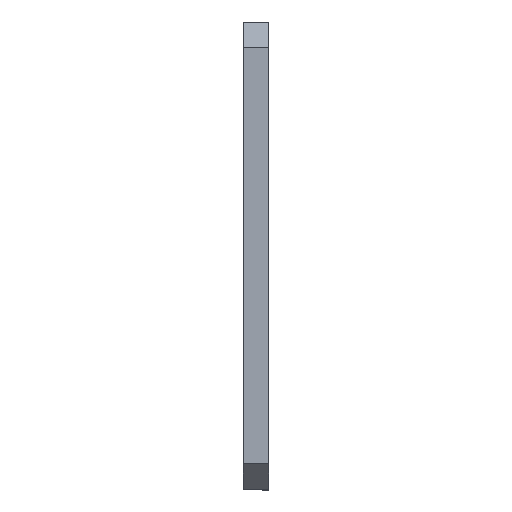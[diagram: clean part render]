
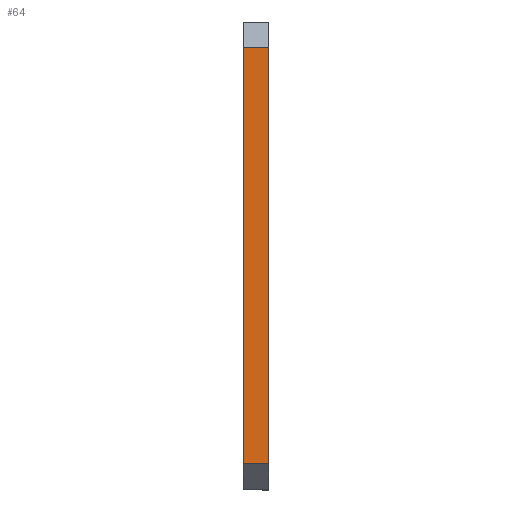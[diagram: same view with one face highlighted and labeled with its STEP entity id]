
A CAD part, top view. The second image highlights one B-rep face of the part: STEP entity #64.
In plain terms, the highlighted planar face has unit normal (0, 0, 1).
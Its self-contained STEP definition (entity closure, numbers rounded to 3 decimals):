
#30 = PLANE ( 'NONE',  #243 ) ;
#64 = ADVANCED_FACE ( 'NONE', ( #558 ), #30, .T. ) ;
#106 = VERTEX_POINT ( 'NONE', #262 ) ;
#124 = VERTEX_POINT ( 'NONE', #282 ) ;
#125 = VERTEX_POINT ( 'NONE', #283 ) ;
#131 = VERTEX_POINT ( 'NONE', #289 ) ;
#243 = AXIS2_PLACEMENT_3D ( 'NONE', #250, #256, #257 ) ;
#250 = CARTESIAN_POINT ( 'NONE',  ( -2., 39.493, 37.6 ) ) ;
#256 = DIRECTION ( 'NONE',  ( 0., 0., 1. ) ) ;
#257 = DIRECTION ( 'NONE',  ( 0., 1., 0. ) ) ;
#262 = CARTESIAN_POINT ( 'NONE',  ( -4., 39.493, 37.6 ) ) ;
#282 = CARTESIAN_POINT ( 'NONE',  ( 0., 39.493, 37.6 ) ) ;
#283 = CARTESIAN_POINT ( 'NONE',  ( 0., -25.493, 37.6 ) ) ;
#289 = CARTESIAN_POINT ( 'NONE',  ( -4., -25.493, 37.6 ) ) ;
#315 = EDGE_CURVE ( 'NONE', #124, #125, #508, .T. ) ;
#340 = CARTESIAN_POINT ( 'NONE',  ( 0., 39.493, 37.6 ) ) ;
#343 = DIRECTION ( 'NONE',  ( 0., -1., 0. ) ) ;
#374 = EDGE_CURVE ( 'NONE', #131, #106, #482, .T. ) ;
#381 = EDGE_CURVE ( 'NONE', #106, #124, #470, .T. ) ;
#394 = EDGE_CURVE ( 'NONE', #131, #125, #420, .T. ) ;
#419 = VECTOR ( 'NONE', #841, 1000. ) ;
#420 = LINE ( 'NONE', #840, #419 ) ;
#432 = EDGE_LOOP ( 'NONE', ( #639, #640, #641, #642 ) ) ;
#451 = VECTOR ( 'NONE', #815, 1000. ) ;
#465 = VECTOR ( 'NONE', #800, 1000. ) ;
#470 = LINE ( 'NONE', #805, #451 ) ;
#482 = LINE ( 'NONE', #793, #465 ) ;
#503 = VECTOR ( 'NONE', #343, 1000. ) ;
#508 = LINE ( 'NONE', #340, #503 ) ;
#558 = FACE_OUTER_BOUND ( 'NONE', #432, .T. ) ;
#639 = ORIENTED_EDGE ( 'NONE', *, *, #315, .F. ) ;
#640 = ORIENTED_EDGE ( 'NONE', *, *, #381, .F. ) ;
#641 = ORIENTED_EDGE ( 'NONE', *, *, #374, .F. ) ;
#642 = ORIENTED_EDGE ( 'NONE', *, *, #394, .T. ) ;
#793 = CARTESIAN_POINT ( 'NONE',  ( -4., -25.493, 37.6 ) ) ;
#800 = DIRECTION ( 'NONE',  ( 0., 1., 0. ) ) ;
#805 = CARTESIAN_POINT ( 'NONE',  ( -2., 39.493, 37.6 ) ) ;
#815 = DIRECTION ( 'NONE',  ( 1., 0., 0. ) ) ;
#840 = CARTESIAN_POINT ( 'NONE',  ( -2., -25.493, 37.6 ) ) ;
#841 = DIRECTION ( 'NONE',  ( 1., 0., 0. ) ) ;
